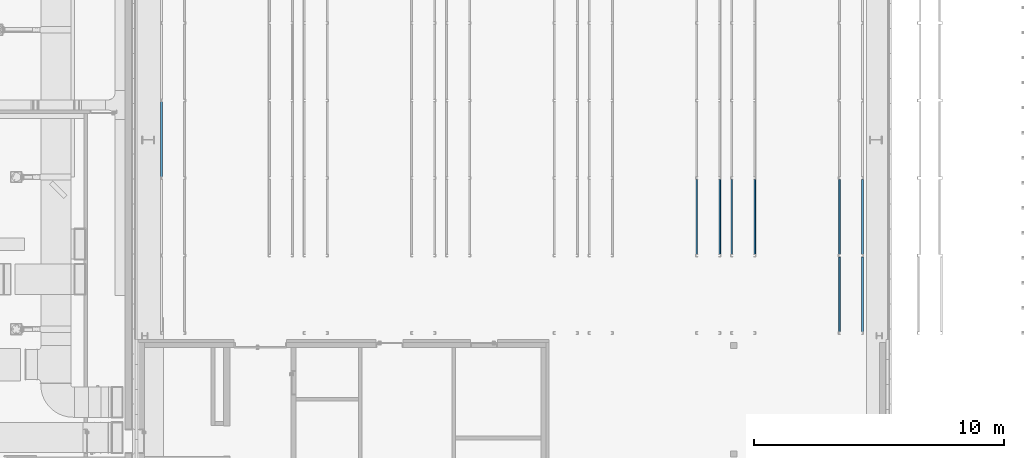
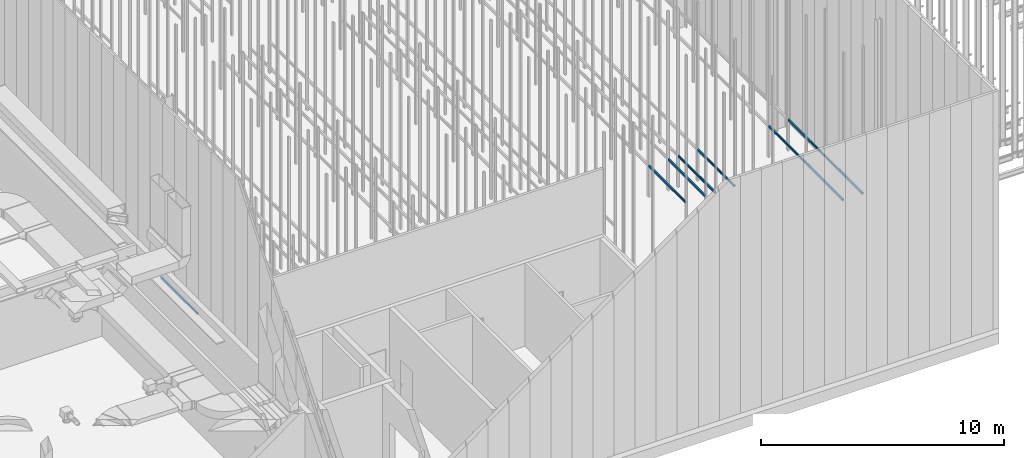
# One storey, part 140 of 302: 9 beams.
"""IFC2X3 building model written with IfcOpenShell, lengths in metres."""

from ifc_helpers import new_model, entity, si_unit, converted_unit, derived_unit, direction, frame, frame_2d, origin, place, context, subcontext, project, spatial, polyline, circle_curve, parameter, trimmed, segment, composite_curve, outline, extrude, material, type_object, element, save


model = new_model("IFC2X3")

# Units and contexts
model_context = context("Model", 3, precision=1e-05, world=origin(), true_north=direction((6.12303176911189e-17, 1.0)))
body_context = subcontext(model_context, "Body", "Model", "MODEL_VIEW")
ifc_project = project(units=[si_unit("LENGTHUNIT", "METRE"), si_unit("AREAUNIT", "SQUARE_METRE"), si_unit("VOLUMEUNIT", "CUBIC_METRE"), converted_unit("PLANEANGLEUNIT", "DEGREE", entity("IfcRatioMeasure", 0.0174532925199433), si_unit("PLANEANGLEUNIT", "RADIAN"), dimensions=[0, 0, 0, 0, 0, 0, 0]), si_unit("MASSUNIT", "GRAM", prefix="KILO"), derived_unit("MASSDENSITYUNIT", [(si_unit("MASSUNIT", "GRAM", prefix="KILO"), 1), (si_unit("LENGTHUNIT", "METRE"), -3)]), derived_unit("MOMENTOFINERTIAUNIT", [(si_unit("LENGTHUNIT", "METRE"), 4)]), si_unit("TIMEUNIT", "SECOND"), si_unit("FREQUENCYUNIT", "HERTZ"), si_unit("THERMODYNAMICTEMPERATUREUNIT", "DEGREE_CELSIUS"), derived_unit("THERMALTRANSMITTANCEUNIT", [(si_unit("MASSUNIT", "GRAM", prefix="KILO"), 1), (si_unit("THERMODYNAMICTEMPERATUREUNIT", "KELVIN"), -1), (si_unit("TIMEUNIT", "SECOND"), -3)]), derived_unit("VOLUMETRICFLOWRATEUNIT", [(si_unit("LENGTHUNIT", "METRE"), 3), (si_unit("TIMEUNIT", "SECOND"), -1)]), si_unit("ELECTRICCURRENTUNIT", "AMPERE"), si_unit("ELECTRICVOLTAGEUNIT", "VOLT"), si_unit("POWERUNIT", "WATT"), si_unit("FORCEUNIT", "NEWTON", prefix="KILO"), si_unit("ILLUMINANCEUNIT", "LUX"), si_unit("LUMINOUSFLUXUNIT", "LUMEN"), si_unit("LUMINOUSINTENSITYUNIT", "CANDELA"), derived_unit("USERDEFINED", [(si_unit("MASSUNIT", "GRAM", prefix="KILO"), -1), (si_unit("LENGTHUNIT", "METRE"), -2), (si_unit("TIMEUNIT", "SECOND"), 3), (si_unit("LUMINOUSFLUXUNIT", "LUMEN"), 1)]), derived_unit("LINEARVELOCITYUNIT", [(si_unit("LENGTHUNIT", "METRE"), 1), (si_unit("TIMEUNIT", "SECOND"), -1)]), si_unit("PRESSUREUNIT", "PASCAL"), derived_unit("USERDEFINED", [(si_unit("LENGTHUNIT", "METRE"), -2), (si_unit("MASSUNIT", "GRAM", prefix="KILO"), 1), (si_unit("TIMEUNIT", "SECOND"), -2)]), derived_unit("LINEARFORCEUNIT", [(si_unit("MASSUNIT", "GRAM", prefix="KILO"), 1), (si_unit("LENGTHUNIT", "METRE"), 1), (si_unit("TIMEUNIT", "SECOND"), -2), (si_unit("LENGTHUNIT", "METRE"), -1)]), derived_unit("PLANARFORCEUNIT", [(si_unit("MASSUNIT", "GRAM", prefix="KILO"), 1), (si_unit("LENGTHUNIT", "METRE"), 1), (si_unit("TIMEUNIT", "SECOND"), -2), (si_unit("LENGTHUNIT", "METRE"), -2)])], contexts=[model_context])

# Site, building, storey
site_placement = place(None, origin())
site = spatial("IfcSite", under=ifc_project, at=site_placement, Name="Default", CompositionType="ELEMENT")
building_placement = place(site_placement, origin())
building = spatial("IfcBuilding", under=site, at=building_placement, CompositionType="ELEMENT")
storey_placement = place(building_placement, frame((0.0, 0.0, -1.3)))
storey = spatial("IfcBuildingStorey", under=building, at=storey_placement, Name="00_EG", CompositionType="ELEMENT", Elevation=-1.3)

# Beams
ifc_material = material(Name="Metall - Baustahl S235 blau")
beam_type = type_object("IfcBeamType", Name="RHS Träger (EN 10219-2):RHS 100 x 75 x 5", PredefinedType="NOTDEFINED")
beam_1_placement = place(storey_placement, frame((-185.015111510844, 27.148088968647, 2.885), z_axis=(0.0, 0.0, 1.0), x_axis=(0.0, 1.0, 0.0)))
element("IfcBeam", 1, at=beam_1_placement, inside=storey, type_object=beam_type, material=ifc_material, Name="RHS Träger (EN 10219-2):RHS 100 x 75 x 5", ObjectType="RHS Träger (EN 10219-2):RHS 100 x 75 x 5", context=body_context, shape_type="SweptSolid", body=[
    extrude(outline(composite_curve([segment(trimmed(circle_curve(frame_2d((-0.0274999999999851, -0.0400000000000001), x_axis=(1.0, 0.0)), 0.01), [parameter(180.0)], [parameter(270.0)], True, "PARAMETER"), True, "CONTINUOUS"), segment(polyline([(-0.0274999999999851, -0.05), (0.0274999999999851, -0.05)]), True, "CONTINUOUS"), segment(trimmed(circle_curve(frame_2d((0.0274999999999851, -0.0400000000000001), x_axis=(1.0, 0.0)), 0.01), [parameter(270.0)], [parameter(5.08888749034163e-14)], True, "PARAMETER"), True, "CONTINUOUS"), segment(polyline([(0.0375000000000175, -0.0399999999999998), (0.0375000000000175, 0.0400000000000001)]), True, "CONTINUOUS"), segment(trimmed(circle_curve(frame_2d((0.0274999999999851, 0.0399999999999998), x_axis=(1.0, 0.0)), 0.01), [parameter(360.0)], [parameter(89.9999999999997)], True, "PARAMETER"), True, "CONTINUOUS"), segment(polyline([(0.0274999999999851, 0.05), (-0.0274999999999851, 0.05)]), True, "CONTINUOUS"), segment(trimmed(circle_curve(frame_2d((-0.0274999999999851, 0.0399999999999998), x_axis=(1.0, 0.0)), 0.01), [parameter(90.0000000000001)], [parameter(180.0)], True, "PARAMETER"), True, "CONTINUOUS"), segment(polyline([(-0.0374999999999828, 0.0400000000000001), (-0.0374999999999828, -0.0399999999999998)]), True, "CONTINUOUS")], self_intersect=False), holes=[composite_curve([segment(polyline([(0.0274999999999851, -0.0450000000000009), (-0.0274999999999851, -0.0450000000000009)]), True, "CONTINUOUS"), segment(trimmed(circle_curve(frame_2d((-0.0274999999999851, -0.0400000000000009), x_axis=(1.0, 0.0)), 0.005), [parameter(180.0)], [parameter(270.0)], True, "PARAMETER"), False, "CONTINUOUS"), segment(polyline([(-0.0325000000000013, -0.0400000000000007), (-0.0325000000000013, 0.0399999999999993)]), True, "CONTINUOUS"), segment(trimmed(circle_curve(frame_2d((-0.0274999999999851, 0.039999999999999), x_axis=(1.0, 0.0)), 0.005), [parameter(90.0000000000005)], [parameter(180.0)], True, "PARAMETER"), False, "CONTINUOUS"), segment(polyline([(-0.0274999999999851, 0.0449999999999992), (0.0274999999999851, 0.0449999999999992)]), True, "CONTINUOUS"), segment(trimmed(circle_curve(frame_2d((0.0274999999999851, 0.039999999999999), x_axis=(1.0, 0.0)), 0.005), [parameter(0.0)], [parameter(90.0000000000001)], True, "PARAMETER"), False, "CONTINUOUS"), segment(polyline([(0.0325000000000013, 0.0399999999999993), (0.0325000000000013, -0.0400000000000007)]), True, "CONTINUOUS"), segment(trimmed(circle_curve(frame_2d((0.0274999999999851, -0.0400000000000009), x_axis=(1.0, 0.0)), 0.005), [parameter(270.0)], [parameter(4.07110999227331e-13)], True, "PARAMETER"), False, "CONTINUOUS")], self_intersect=False)]), frame((9.99999999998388e-05, 0.0375000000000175, -0.0500000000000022), z_axis=(1.0, 0.0, 0.0), x_axis=(0.0, -1.0, 0.0)), (0.0, 0.0, 1.0), 2.9998),
])
beam_2_placement = place(storey_placement, frame((-184.165111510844, 27.148088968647, 2.885), z_axis=(0.0, 0.0, 1.0), x_axis=(0.0, 1.0, 0.0)))
element("IfcBeam", 2, at=beam_2_placement, inside=storey, type_object=beam_type, material=ifc_material, Name="RHS Träger (EN 10219-2):RHS 100 x 75 x 5", ObjectType="RHS Träger (EN 10219-2):RHS 100 x 75 x 5", context=body_context, shape_type="SweptSolid", body=[
    extrude(outline(composite_curve([segment(polyline([(-0.0399999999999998, -0.0374999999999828), (0.0400000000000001, -0.0374999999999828)]), True, "CONTINUOUS"), segment(trimmed(circle_curve(frame_2d((0.0399999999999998, -0.0274999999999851), x_axis=(0.0, 1.0)), 0.01), [parameter(180.0)], [parameter(270.0)], True, "PARAMETER"), True, "CONTINUOUS"), segment(polyline([(0.05, -0.0274999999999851), (0.05, 0.0274999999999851)]), True, "CONTINUOUS"), segment(trimmed(circle_curve(frame_2d((0.0399999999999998, 0.0274999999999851), x_axis=(0.0, 1.0)), 0.01), [parameter(270.0)], [parameter(4.07110999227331e-13)], True, "PARAMETER"), True, "CONTINUOUS"), segment(polyline([(0.0400000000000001, 0.0375000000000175), (-0.0399999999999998, 0.0375000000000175)]), True, "CONTINUOUS"), segment(trimmed(circle_curve(frame_2d((-0.0400000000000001, 0.0274999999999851), x_axis=(0.0, 1.0)), 0.01), [parameter(360.0)], [parameter(90.0000000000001)], True, "PARAMETER"), True, "CONTINUOUS"), segment(polyline([(-0.05, 0.0274999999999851), (-0.05, -0.0274999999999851)]), True, "CONTINUOUS"), segment(trimmed(circle_curve(frame_2d((-0.0400000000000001, -0.0274999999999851), x_axis=(0.0, 1.0)), 0.01), [parameter(90.0000000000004)], [parameter(180.0)], True, "PARAMETER"), True, "CONTINUOUS")], self_intersect=False), holes=[composite_curve([segment(trimmed(circle_curve(frame_2d((-0.0400000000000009, 0.0274999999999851), x_axis=(0.0, 1.0)), 0.005), [parameter(360.0)], [parameter(89.9999999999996)], True, "PARAMETER"), False, "CONTINUOUS"), segment(polyline([(-0.0400000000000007, 0.0325000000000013), (0.0399999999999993, 0.0325000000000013)]), True, "CONTINUOUS"), segment(trimmed(circle_curve(frame_2d((0.039999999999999, 0.0274999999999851), x_axis=(0.0, 1.0)), 0.005), [parameter(270.0)], [parameter(0.0)], True, "PARAMETER"), False, "CONTINUOUS"), segment(polyline([(0.0449999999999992, 0.0274999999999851), (0.0449999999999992, -0.0274999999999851)]), True, "CONTINUOUS"), segment(trimmed(circle_curve(frame_2d((0.039999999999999, -0.0274999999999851), x_axis=(0.0, 1.0)), 0.005), [parameter(180.0)], [parameter(269.999999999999)], True, "PARAMETER"), False, "CONTINUOUS"), segment(polyline([(0.0399999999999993, -0.0325000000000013), (-0.0400000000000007, -0.0325000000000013)]), True, "CONTINUOUS"), segment(trimmed(circle_curve(frame_2d((-0.0400000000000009, -0.0274999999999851), x_axis=(0.0, 1.0)), 0.005), [parameter(90.0000000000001)], [parameter(180.0)], True, "PARAMETER"), False, "CONTINUOUS"), segment(polyline([(-0.0450000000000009, -0.0274999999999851), (-0.0450000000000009, 0.0274999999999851)]), True, "CONTINUOUS")], self_intersect=False)]), frame((9.99999999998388e-05, -0.0375000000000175, -0.0500000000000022), z_axis=(1.0, 0.0, 0.0), x_axis=(0.0, 0.0, -1.0)), (0.0, 0.0, 1.0), 2.9998),
])
beam_3_placement = place(storey_placement, frame((-183.615111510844, 27.148088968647, 2.885), z_axis=(0.0, 0.0, 1.0), x_axis=(0.0, 1.0, 0.0)))
element("IfcBeam", 3, at=beam_3_placement, inside=storey, type_object=beam_type, material=ifc_material, Name="RHS Träger (EN 10219-2):RHS 100 x 75 x 5", ObjectType="RHS Träger (EN 10219-2):RHS 100 x 75 x 5", context=body_context, shape_type="SweptSolid", body=[
    extrude(outline(composite_curve([segment(trimmed(circle_curve(frame_2d((-0.0274999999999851, -0.0400000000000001), x_axis=(1.0, 0.0)), 0.01), [parameter(180.0)], [parameter(270.0)], True, "PARAMETER"), True, "CONTINUOUS"), segment(polyline([(-0.0274999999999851, -0.05), (0.0274999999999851, -0.05)]), True, "CONTINUOUS"), segment(trimmed(circle_curve(frame_2d((0.0274999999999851, -0.0400000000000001), x_axis=(1.0, 0.0)), 0.01), [parameter(270.0)], [parameter(5.08888749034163e-14)], True, "PARAMETER"), True, "CONTINUOUS"), segment(polyline([(0.0375000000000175, -0.0399999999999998), (0.0375000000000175, 0.0400000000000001)]), True, "CONTINUOUS"), segment(trimmed(circle_curve(frame_2d((0.0274999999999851, 0.0399999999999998), x_axis=(1.0, 0.0)), 0.01), [parameter(360.0)], [parameter(89.9999999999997)], True, "PARAMETER"), True, "CONTINUOUS"), segment(polyline([(0.0274999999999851, 0.05), (-0.0274999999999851, 0.05)]), True, "CONTINUOUS"), segment(trimmed(circle_curve(frame_2d((-0.0274999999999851, 0.0399999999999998), x_axis=(1.0, 0.0)), 0.01), [parameter(90.0000000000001)], [parameter(180.0)], True, "PARAMETER"), True, "CONTINUOUS"), segment(polyline([(-0.0374999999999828, 0.0400000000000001), (-0.0374999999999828, -0.0399999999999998)]), True, "CONTINUOUS")], self_intersect=False), holes=[composite_curve([segment(polyline([(0.0274999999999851, -0.0450000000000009), (-0.0274999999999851, -0.0450000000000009)]), True, "CONTINUOUS"), segment(trimmed(circle_curve(frame_2d((-0.0274999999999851, -0.0400000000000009), x_axis=(1.0, 0.0)), 0.005), [parameter(180.0)], [parameter(270.0)], True, "PARAMETER"), False, "CONTINUOUS"), segment(polyline([(-0.0325000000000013, -0.0400000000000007), (-0.0325000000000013, 0.0399999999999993)]), True, "CONTINUOUS"), segment(trimmed(circle_curve(frame_2d((-0.0274999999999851, 0.039999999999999), x_axis=(1.0, 0.0)), 0.005), [parameter(90.0000000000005)], [parameter(180.0)], True, "PARAMETER"), False, "CONTINUOUS"), segment(polyline([(-0.0274999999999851, 0.0449999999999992), (0.0274999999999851, 0.0449999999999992)]), True, "CONTINUOUS"), segment(trimmed(circle_curve(frame_2d((0.0274999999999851, 0.039999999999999), x_axis=(1.0, 0.0)), 0.005), [parameter(0.0)], [parameter(90.0000000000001)], True, "PARAMETER"), False, "CONTINUOUS"), segment(polyline([(0.0325000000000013, 0.0399999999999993), (0.0325000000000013, -0.0400000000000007)]), True, "CONTINUOUS"), segment(trimmed(circle_curve(frame_2d((0.0274999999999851, -0.0400000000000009), x_axis=(1.0, 0.0)), 0.005), [parameter(270.0)], [parameter(4.07110999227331e-13)], True, "PARAMETER"), False, "CONTINUOUS")], self_intersect=False)]), frame((0.00010000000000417, 0.0375000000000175, -0.0500000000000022), z_axis=(1.0, 0.0, 0.0), x_axis=(0.0, -1.0, 0.0)), (0.0, 0.0, 1.0), 2.9998),
])
beam_4_placement = place(storey_placement, frame((-182.765111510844, 27.148088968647, 2.885), z_axis=(0.0, 0.0, 1.0), x_axis=(0.0, 1.0, 0.0)))
element("IfcBeam", 4, at=beam_4_placement, inside=storey, type_object=beam_type, material=ifc_material, Name="RHS Träger (EN 10219-2):RHS 100 x 75 x 5", ObjectType="RHS Träger (EN 10219-2):RHS 100 x 75 x 5", context=body_context, shape_type="SweptSolid", body=[
    extrude(outline(composite_curve([segment(polyline([(-0.0399999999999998, -0.0374999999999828), (0.0400000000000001, -0.0374999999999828)]), True, "CONTINUOUS"), segment(trimmed(circle_curve(frame_2d((0.0399999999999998, -0.0274999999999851), x_axis=(0.0, 1.0)), 0.01), [parameter(180.0)], [parameter(270.0)], True, "PARAMETER"), True, "CONTINUOUS"), segment(polyline([(0.05, -0.0274999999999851), (0.05, 0.0274999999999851)]), True, "CONTINUOUS"), segment(trimmed(circle_curve(frame_2d((0.0399999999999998, 0.0274999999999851), x_axis=(0.0, 1.0)), 0.01), [parameter(270.0)], [parameter(4.07110999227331e-13)], True, "PARAMETER"), True, "CONTINUOUS"), segment(polyline([(0.0400000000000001, 0.0375000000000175), (-0.0399999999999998, 0.0375000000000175)]), True, "CONTINUOUS"), segment(trimmed(circle_curve(frame_2d((-0.0400000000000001, 0.0274999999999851), x_axis=(0.0, 1.0)), 0.01), [parameter(360.0)], [parameter(90.0000000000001)], True, "PARAMETER"), True, "CONTINUOUS"), segment(polyline([(-0.05, 0.0274999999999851), (-0.05, -0.0274999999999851)]), True, "CONTINUOUS"), segment(trimmed(circle_curve(frame_2d((-0.0400000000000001, -0.0274999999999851), x_axis=(0.0, 1.0)), 0.01), [parameter(90.0000000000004)], [parameter(180.0)], True, "PARAMETER"), True, "CONTINUOUS")], self_intersect=False), holes=[composite_curve([segment(trimmed(circle_curve(frame_2d((-0.0400000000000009, 0.0274999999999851), x_axis=(0.0, 1.0)), 0.005), [parameter(360.0)], [parameter(89.9999999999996)], True, "PARAMETER"), False, "CONTINUOUS"), segment(polyline([(-0.0400000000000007, 0.0325000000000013), (0.0399999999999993, 0.0325000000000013)]), True, "CONTINUOUS"), segment(trimmed(circle_curve(frame_2d((0.039999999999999, 0.0274999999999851), x_axis=(0.0, 1.0)), 0.005), [parameter(270.0)], [parameter(0.0)], True, "PARAMETER"), False, "CONTINUOUS"), segment(polyline([(0.0449999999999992, 0.0274999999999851), (0.0449999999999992, -0.0274999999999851)]), True, "CONTINUOUS"), segment(trimmed(circle_curve(frame_2d((0.039999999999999, -0.0274999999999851), x_axis=(0.0, 1.0)), 0.005), [parameter(180.0)], [parameter(269.999999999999)], True, "PARAMETER"), False, "CONTINUOUS"), segment(polyline([(0.0399999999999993, -0.0325000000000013), (-0.0400000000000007, -0.0325000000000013)]), True, "CONTINUOUS"), segment(trimmed(circle_curve(frame_2d((-0.0400000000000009, -0.0274999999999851), x_axis=(0.0, 1.0)), 0.005), [parameter(90.0000000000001)], [parameter(180.0)], True, "PARAMETER"), False, "CONTINUOUS"), segment(polyline([(-0.0450000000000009, -0.0274999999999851), (-0.0450000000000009, 0.0274999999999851)]), True, "CONTINUOUS")], self_intersect=False)]), frame((0.00010000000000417, -0.0375000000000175, -0.0500000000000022), z_axis=(1.0, 0.0, 0.0), x_axis=(0.0, 0.0, -1.0)), (0.0, 0.0, 1.0), 2.9998),
])
beam_5_placement = place(storey_placement, frame((-179.315111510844, 27.148088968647, 2.885), z_axis=(0.0, 0.0, 1.0), x_axis=(0.0, 1.0, 0.0)))
element("IfcBeam", 5, at=beam_5_placement, inside=storey, type_object=beam_type, material=ifc_material, Name="RHS Träger (EN 10219-2):RHS 100 x 75 x 5", ObjectType="RHS Träger (EN 10219-2):RHS 100 x 75 x 5", context=body_context, shape_type="SweptSolid", body=[
    extrude(outline(composite_curve([segment(trimmed(circle_curve(frame_2d((-0.0274999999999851, -0.0400000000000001), x_axis=(1.0, 0.0)), 0.01), [parameter(180.0)], [parameter(270.0)], True, "PARAMETER"), True, "CONTINUOUS"), segment(polyline([(-0.0274999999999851, -0.05), (0.0274999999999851, -0.05)]), True, "CONTINUOUS"), segment(trimmed(circle_curve(frame_2d((0.0274999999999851, -0.0400000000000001), x_axis=(1.0, 0.0)), 0.01), [parameter(270.0)], [parameter(5.08888749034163e-14)], True, "PARAMETER"), True, "CONTINUOUS"), segment(polyline([(0.0375000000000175, -0.0399999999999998), (0.0375000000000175, 0.0400000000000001)]), True, "CONTINUOUS"), segment(trimmed(circle_curve(frame_2d((0.0274999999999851, 0.0399999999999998), x_axis=(1.0, 0.0)), 0.01), [parameter(360.0)], [parameter(89.9999999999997)], True, "PARAMETER"), True, "CONTINUOUS"), segment(polyline([(0.0274999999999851, 0.05), (-0.0274999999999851, 0.05)]), True, "CONTINUOUS"), segment(trimmed(circle_curve(frame_2d((-0.0274999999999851, 0.0399999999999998), x_axis=(1.0, 0.0)), 0.01), [parameter(90.0000000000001)], [parameter(180.0)], True, "PARAMETER"), True, "CONTINUOUS"), segment(polyline([(-0.0374999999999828, 0.0400000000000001), (-0.0374999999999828, -0.0399999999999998)]), True, "CONTINUOUS")], self_intersect=False), holes=[composite_curve([segment(polyline([(0.0274999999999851, -0.0450000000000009), (-0.0274999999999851, -0.0450000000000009)]), True, "CONTINUOUS"), segment(trimmed(circle_curve(frame_2d((-0.0274999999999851, -0.0400000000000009), x_axis=(1.0, 0.0)), 0.005), [parameter(180.0)], [parameter(270.0)], True, "PARAMETER"), False, "CONTINUOUS"), segment(polyline([(-0.0325000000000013, -0.0400000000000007), (-0.0325000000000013, 0.0399999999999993)]), True, "CONTINUOUS"), segment(trimmed(circle_curve(frame_2d((-0.0274999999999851, 0.039999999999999), x_axis=(1.0, 0.0)), 0.005), [parameter(90.0000000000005)], [parameter(180.0)], True, "PARAMETER"), False, "CONTINUOUS"), segment(polyline([(-0.0274999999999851, 0.0449999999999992), (0.0274999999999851, 0.0449999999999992)]), True, "CONTINUOUS"), segment(trimmed(circle_curve(frame_2d((0.0274999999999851, 0.039999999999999), x_axis=(1.0, 0.0)), 0.005), [parameter(0.0)], [parameter(90.0000000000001)], True, "PARAMETER"), False, "CONTINUOUS"), segment(polyline([(0.0325000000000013, 0.0399999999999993), (0.0325000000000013, -0.0400000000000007)]), True, "CONTINUOUS"), segment(trimmed(circle_curve(frame_2d((0.0274999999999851, -0.0400000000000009), x_axis=(1.0, 0.0)), 0.005), [parameter(270.0)], [parameter(4.07110999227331e-13)], True, "PARAMETER"), False, "CONTINUOUS")], self_intersect=False)]), frame((9.99999999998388e-05, 0.0375000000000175, -0.0500000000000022), z_axis=(1.0, 0.0, 0.0), x_axis=(0.0, -1.0, 0.0)), (0.0, 0.0, 1.0), 2.9998),
])
beam_6_placement = place(storey_placement, frame((-178.465111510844, 27.148088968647, 2.885), z_axis=(0.0, 0.0, 1.0), x_axis=(0.0, 1.0, 0.0)))
element("IfcBeam", 6, at=beam_6_placement, inside=storey, type_object=beam_type, material=ifc_material, Name="RHS Träger (EN 10219-2):RHS 100 x 75 x 5", ObjectType="RHS Träger (EN 10219-2):RHS 100 x 75 x 5", context=body_context, shape_type="SweptSolid", body=[
    extrude(outline(composite_curve([segment(polyline([(-0.0399999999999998, -0.0374999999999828), (0.0400000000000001, -0.0374999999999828)]), True, "CONTINUOUS"), segment(trimmed(circle_curve(frame_2d((0.0399999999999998, -0.0274999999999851), x_axis=(0.0, 1.0)), 0.01), [parameter(180.0)], [parameter(270.0)], True, "PARAMETER"), True, "CONTINUOUS"), segment(polyline([(0.05, -0.0274999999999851), (0.05, 0.0274999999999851)]), True, "CONTINUOUS"), segment(trimmed(circle_curve(frame_2d((0.0399999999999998, 0.0274999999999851), x_axis=(0.0, 1.0)), 0.01), [parameter(270.0)], [parameter(4.07110999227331e-13)], True, "PARAMETER"), True, "CONTINUOUS"), segment(polyline([(0.0400000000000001, 0.0375000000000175), (-0.0399999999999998, 0.0375000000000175)]), True, "CONTINUOUS"), segment(trimmed(circle_curve(frame_2d((-0.0400000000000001, 0.0274999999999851), x_axis=(0.0, 1.0)), 0.01), [parameter(360.0)], [parameter(90.0000000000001)], True, "PARAMETER"), True, "CONTINUOUS"), segment(polyline([(-0.05, 0.0274999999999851), (-0.05, -0.0274999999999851)]), True, "CONTINUOUS"), segment(trimmed(circle_curve(frame_2d((-0.0400000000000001, -0.0274999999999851), x_axis=(0.0, 1.0)), 0.01), [parameter(90.0000000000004)], [parameter(180.0)], True, "PARAMETER"), True, "CONTINUOUS")], self_intersect=False), holes=[composite_curve([segment(trimmed(circle_curve(frame_2d((-0.0400000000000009, 0.0274999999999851), x_axis=(0.0, 1.0)), 0.005), [parameter(360.0)], [parameter(89.9999999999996)], True, "PARAMETER"), False, "CONTINUOUS"), segment(polyline([(-0.0400000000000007, 0.0325000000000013), (0.0399999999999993, 0.0325000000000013)]), True, "CONTINUOUS"), segment(trimmed(circle_curve(frame_2d((0.039999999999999, 0.0274999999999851), x_axis=(0.0, 1.0)), 0.005), [parameter(270.0)], [parameter(0.0)], True, "PARAMETER"), False, "CONTINUOUS"), segment(polyline([(0.0449999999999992, 0.0274999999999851), (0.0449999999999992, -0.0274999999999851)]), True, "CONTINUOUS"), segment(trimmed(circle_curve(frame_2d((0.039999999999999, -0.0274999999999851), x_axis=(0.0, 1.0)), 0.005), [parameter(180.0)], [parameter(269.999999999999)], True, "PARAMETER"), False, "CONTINUOUS"), segment(polyline([(0.0399999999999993, -0.0325000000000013), (-0.0400000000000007, -0.0325000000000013)]), True, "CONTINUOUS"), segment(trimmed(circle_curve(frame_2d((-0.0400000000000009, -0.0274999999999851), x_axis=(0.0, 1.0)), 0.005), [parameter(90.0000000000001)], [parameter(180.0)], True, "PARAMETER"), False, "CONTINUOUS"), segment(polyline([(-0.0450000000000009, -0.0274999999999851), (-0.0450000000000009, 0.0274999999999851)]), True, "CONTINUOUS")], self_intersect=False)]), frame((9.99999999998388e-05, -0.0375000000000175, -0.0500000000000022), z_axis=(1.0, 0.0, 0.0), x_axis=(0.0, 0.0, -1.0)), (0.0, 0.0, 1.0), 2.9998),
])
beam_7_placement = place(storey_placement, frame((-206.415111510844, 30.248088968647, 2.885), z_axis=(0.0, 0.0, 1.0), x_axis=(0.0, 1.0, 0.0)))
element("IfcBeam", 7, at=beam_7_placement, inside=storey, type_object=beam_type, material=ifc_material, Name="RHS Träger (EN 10219-2):RHS 100 x 75 x 5", ObjectType="RHS Träger (EN 10219-2):RHS 100 x 75 x 5", context=body_context, shape_type="SweptSolid", body=[
    extrude(outline(composite_curve([segment(trimmed(circle_curve(frame_2d((-0.0274999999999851, -0.0400000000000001), x_axis=(1.0, 0.0)), 0.01), [parameter(180.0)], [parameter(270.0)], True, "PARAMETER"), True, "CONTINUOUS"), segment(polyline([(-0.0274999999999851, -0.05), (0.0274999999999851, -0.05)]), True, "CONTINUOUS"), segment(trimmed(circle_curve(frame_2d((0.0274999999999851, -0.0400000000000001), x_axis=(1.0, 0.0)), 0.01), [parameter(270.0)], [parameter(5.08888749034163e-14)], True, "PARAMETER"), True, "CONTINUOUS"), segment(polyline([(0.0375000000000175, -0.0399999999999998), (0.0375000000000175, 0.0400000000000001)]), True, "CONTINUOUS"), segment(trimmed(circle_curve(frame_2d((0.0274999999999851, 0.0399999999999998), x_axis=(1.0, 0.0)), 0.01), [parameter(360.0)], [parameter(89.9999999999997)], True, "PARAMETER"), True, "CONTINUOUS"), segment(polyline([(0.0274999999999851, 0.05), (-0.0274999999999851, 0.05)]), True, "CONTINUOUS"), segment(trimmed(circle_curve(frame_2d((-0.0274999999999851, 0.0399999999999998), x_axis=(1.0, 0.0)), 0.01), [parameter(90.0000000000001)], [parameter(180.0)], True, "PARAMETER"), True, "CONTINUOUS"), segment(polyline([(-0.0374999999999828, 0.0400000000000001), (-0.0374999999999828, -0.0399999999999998)]), True, "CONTINUOUS")], self_intersect=False), holes=[composite_curve([segment(polyline([(0.0274999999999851, -0.0450000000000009), (-0.0274999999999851, -0.0450000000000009)]), True, "CONTINUOUS"), segment(trimmed(circle_curve(frame_2d((-0.0274999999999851, -0.0400000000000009), x_axis=(1.0, 0.0)), 0.005), [parameter(180.0)], [parameter(270.0)], True, "PARAMETER"), False, "CONTINUOUS"), segment(polyline([(-0.0325000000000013, -0.0400000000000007), (-0.0325000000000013, 0.0399999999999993)]), True, "CONTINUOUS"), segment(trimmed(circle_curve(frame_2d((-0.0274999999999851, 0.039999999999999), x_axis=(1.0, 0.0)), 0.005), [parameter(90.0000000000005)], [parameter(180.0)], True, "PARAMETER"), False, "CONTINUOUS"), segment(polyline([(-0.0274999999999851, 0.0449999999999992), (0.0274999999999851, 0.0449999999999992)]), True, "CONTINUOUS"), segment(trimmed(circle_curve(frame_2d((0.0274999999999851, 0.039999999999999), x_axis=(1.0, 0.0)), 0.005), [parameter(0.0)], [parameter(90.0000000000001)], True, "PARAMETER"), False, "CONTINUOUS"), segment(polyline([(0.0325000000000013, 0.0399999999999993), (0.0325000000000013, -0.0400000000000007)]), True, "CONTINUOUS"), segment(trimmed(circle_curve(frame_2d((0.0274999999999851, -0.0400000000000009), x_axis=(1.0, 0.0)), 0.005), [parameter(270.0)], [parameter(4.07110999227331e-13)], True, "PARAMETER"), False, "CONTINUOUS")], self_intersect=False)]), frame((9.99999999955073e-05, 0.0375000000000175, -0.0500000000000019), z_axis=(1.0, 0.0, 0.0), x_axis=(0.0, -1.0, 0.0)), (0.0, 0.0, 1.0), 2.9998),
])
beam_8_placement = place(storey_placement, frame((-179.315111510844, 24.048088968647, 2.885), z_axis=(0.0, 0.0, 1.0), x_axis=(0.0, 1.0, 0.0)))
element("IfcBeam", 8, at=beam_8_placement, inside=storey, type_object=beam_type, material=ifc_material, Name="RHS Träger (EN 10219-2):RHS 100 x 75 x 5", ObjectType="RHS Träger (EN 10219-2):RHS 100 x 75 x 5", context=body_context, shape_type="SweptSolid", body=[
    extrude(outline(composite_curve([segment(trimmed(circle_curve(frame_2d((-0.0274999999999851, -0.0400000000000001), x_axis=(1.0, 0.0)), 0.01), [parameter(180.0)], [parameter(270.0)], True, "PARAMETER"), True, "CONTINUOUS"), segment(polyline([(-0.0274999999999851, -0.05), (0.0274999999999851, -0.05)]), True, "CONTINUOUS"), segment(trimmed(circle_curve(frame_2d((0.0274999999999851, -0.0400000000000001), x_axis=(1.0, 0.0)), 0.01), [parameter(270.0)], [parameter(5.08888749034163e-14)], True, "PARAMETER"), True, "CONTINUOUS"), segment(polyline([(0.0375000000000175, -0.0399999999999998), (0.0375000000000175, 0.0400000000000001)]), True, "CONTINUOUS"), segment(trimmed(circle_curve(frame_2d((0.0274999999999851, 0.0399999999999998), x_axis=(1.0, 0.0)), 0.01), [parameter(360.0)], [parameter(89.9999999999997)], True, "PARAMETER"), True, "CONTINUOUS"), segment(polyline([(0.0274999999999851, 0.05), (-0.0274999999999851, 0.05)]), True, "CONTINUOUS"), segment(trimmed(circle_curve(frame_2d((-0.0274999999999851, 0.0399999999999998), x_axis=(1.0, 0.0)), 0.01), [parameter(90.0000000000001)], [parameter(180.0)], True, "PARAMETER"), True, "CONTINUOUS"), segment(polyline([(-0.0374999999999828, 0.0400000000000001), (-0.0374999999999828, -0.0399999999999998)]), True, "CONTINUOUS")], self_intersect=False), holes=[composite_curve([segment(polyline([(0.0274999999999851, -0.0450000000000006), (-0.0274999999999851, -0.0450000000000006)]), True, "CONTINUOUS"), segment(trimmed(circle_curve(frame_2d((-0.0274999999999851, -0.0400000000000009), x_axis=(1.0, 0.0)), 0.005), [parameter(180.0)], [parameter(270.0)], True, "PARAMETER"), False, "CONTINUOUS"), segment(polyline([(-0.0325000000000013, -0.0400000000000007), (-0.0325000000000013, 0.0399999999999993)]), True, "CONTINUOUS"), segment(trimmed(circle_curve(frame_2d((-0.0274999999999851, 0.039999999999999), x_axis=(1.0, 0.0)), 0.005), [parameter(90.0000000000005)], [parameter(180.0)], True, "PARAMETER"), False, "CONTINUOUS"), segment(polyline([(-0.0274999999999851, 0.0449999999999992), (0.0274999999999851, 0.0449999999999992)]), True, "CONTINUOUS"), segment(trimmed(circle_curve(frame_2d((0.0274999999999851, 0.039999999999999), x_axis=(1.0, 0.0)), 0.005), [parameter(0.0)], [parameter(90.0000000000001)], True, "PARAMETER"), False, "CONTINUOUS"), segment(polyline([(0.0325000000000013, 0.0399999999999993), (0.0325000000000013, -0.0400000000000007)]), True, "CONTINUOUS"), segment(trimmed(circle_curve(frame_2d((0.0274999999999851, -0.0400000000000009), x_axis=(1.0, 0.0)), 0.005), [parameter(270.0)], [parameter(4.07110999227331e-13)], True, "PARAMETER"), False, "CONTINUOUS")], self_intersect=False)]), frame((9.99999999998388e-05, 0.0375000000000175, -0.0500000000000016), z_axis=(1.0, 0.0, 0.0), x_axis=(0.0, -1.0, 0.0)), (0.0, 0.0, 1.0), 2.9998),
])
beam_9_placement = place(storey_placement, frame((-178.465111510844, 24.048088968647, 2.885), z_axis=(0.0, 0.0, 1.0), x_axis=(0.0, 1.0, 0.0)))
element("IfcBeam", 9, at=beam_9_placement, inside=storey, type_object=beam_type, material=ifc_material, Name="RHS Träger (EN 10219-2):RHS 100 x 75 x 5", ObjectType="RHS Träger (EN 10219-2):RHS 100 x 75 x 5", context=body_context, shape_type="SweptSolid", body=[
    extrude(outline(composite_curve([segment(polyline([(-0.0399999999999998, -0.0374999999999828), (0.0400000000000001, -0.0374999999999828)]), True, "CONTINUOUS"), segment(trimmed(circle_curve(frame_2d((0.0399999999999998, -0.0274999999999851), x_axis=(0.0, 1.0)), 0.01), [parameter(180.0)], [parameter(270.0)], True, "PARAMETER"), True, "CONTINUOUS"), segment(polyline([(0.05, -0.0274999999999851), (0.05, 0.0274999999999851)]), True, "CONTINUOUS"), segment(trimmed(circle_curve(frame_2d((0.0399999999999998, 0.0274999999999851), x_axis=(0.0, 1.0)), 0.01), [parameter(270.0)], [parameter(4.07110999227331e-13)], True, "PARAMETER"), True, "CONTINUOUS"), segment(polyline([(0.0400000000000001, 0.0375000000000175), (-0.0399999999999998, 0.0375000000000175)]), True, "CONTINUOUS"), segment(trimmed(circle_curve(frame_2d((-0.0400000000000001, 0.0274999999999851), x_axis=(0.0, 1.0)), 0.01), [parameter(360.0)], [parameter(90.0000000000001)], True, "PARAMETER"), True, "CONTINUOUS"), segment(polyline([(-0.05, 0.0274999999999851), (-0.05, -0.0274999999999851)]), True, "CONTINUOUS"), segment(trimmed(circle_curve(frame_2d((-0.0400000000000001, -0.0274999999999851), x_axis=(0.0, 1.0)), 0.01), [parameter(90.0000000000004)], [parameter(180.0)], True, "PARAMETER"), True, "CONTINUOUS")], self_intersect=False), holes=[composite_curve([segment(trimmed(circle_curve(frame_2d((-0.0400000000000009, 0.0274999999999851), x_axis=(0.0, 1.0)), 0.005), [parameter(360.0)], [parameter(89.9999999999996)], True, "PARAMETER"), False, "CONTINUOUS"), segment(polyline([(-0.0400000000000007, 0.0325000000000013), (0.0399999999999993, 0.0325000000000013)]), True, "CONTINUOUS"), segment(trimmed(circle_curve(frame_2d((0.039999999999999, 0.0274999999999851), x_axis=(0.0, 1.0)), 0.005), [parameter(270.0)], [parameter(0.0)], True, "PARAMETER"), False, "CONTINUOUS"), segment(polyline([(0.0449999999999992, 0.0274999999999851), (0.0449999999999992, -0.0274999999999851)]), True, "CONTINUOUS"), segment(trimmed(circle_curve(frame_2d((0.039999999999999, -0.0274999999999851), x_axis=(0.0, 1.0)), 0.005), [parameter(180.0)], [parameter(269.999999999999)], True, "PARAMETER"), False, "CONTINUOUS"), segment(polyline([(0.0399999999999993, -0.0325000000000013), (-0.0400000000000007, -0.0325000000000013)]), True, "CONTINUOUS"), segment(trimmed(circle_curve(frame_2d((-0.0400000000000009, -0.0274999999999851), x_axis=(0.0, 1.0)), 0.005), [parameter(90.0000000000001)], [parameter(180.0)], True, "PARAMETER"), False, "CONTINUOUS"), segment(polyline([(-0.0450000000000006, -0.0274999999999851), (-0.0450000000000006, 0.0274999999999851)]), True, "CONTINUOUS")], self_intersect=False)]), frame((9.99999999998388e-05, -0.0375000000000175, -0.0500000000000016), z_axis=(1.0, 0.0, 0.0), x_axis=(0.0, 0.0, -1.0)), (0.0, 0.0, 1.0), 2.9998),
])

save(model, "model.ifc")
